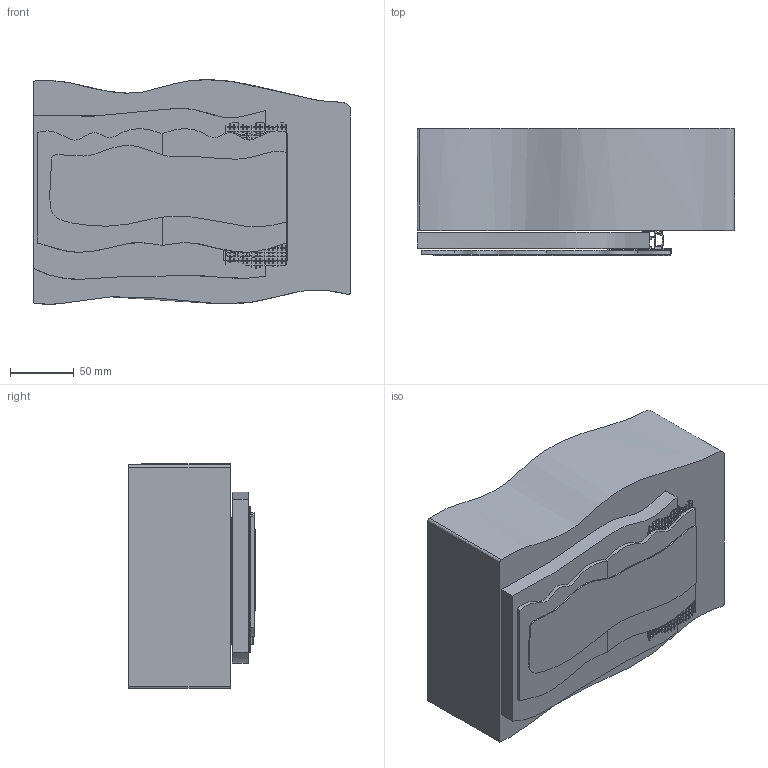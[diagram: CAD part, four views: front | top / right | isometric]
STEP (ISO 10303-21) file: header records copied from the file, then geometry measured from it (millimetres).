
FILE_DESCRIPTION(/* description */ (''),/* implementation_level */ '2;1');
FILE_NAME(/* name */ 'W:\R&D\pub\Katalog techniczny\Bryły PIM\STP\Nowe Glax-y\PA-GLAXGKS3M-00_kpl.stp',/* time_stamp */ '2019-10-10T10:10:26+02:00',/* author */ ('tomaszw'),/* organization */ (''),/* preprocessor_version */ 'ST-DEVELOPER v17.2',/* originating_system */ 'Autodesk Inventor 2019',/* authorisation */ '');
FILE_SCHEMA (('AUTOMOTIVE_DESIGN { 1 0 10303 214 3 1 1 }'));
Products named in the file (8): Złożenie_sufit_1; C-LED-03-01; siatka; gips; GTV-221 -05; dodatkowa płyta; farba_2; sciana
Assembly tree (8 placements, depth 2):
  Złożenie_sufit_1
    C-LED-03-01
    siatka
    gips  x2
    GTV-221 -05
    dodatkowa płyta
    farba_2
    sciana
Bounding box: 250 x 99.76 x 176.68 mm (x, y, z)
Volume: 3671256.1 mm3; surface area: 287734.6 mm2
Topology: 8 solids, 8 shells, 2205 faces, 6567 edges, 4378 vertices
Faces by surface type: plane 2124, bspline 46, cylinder 35
Entity records: 76692 total; most frequent: CARTESIAN_POINT 15500, ORIENTED_EDGE 13104, DIRECTION 10802, EDGE_CURVE 6552, LINE 6320, VECTOR 6320, VERTEX_POINT 4368, EDGE_LOOP 3142
